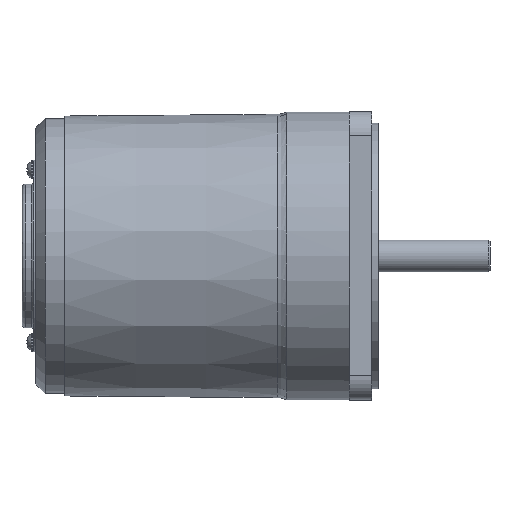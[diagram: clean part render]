
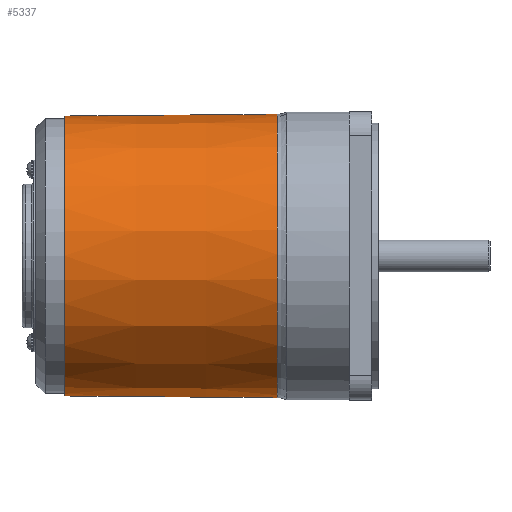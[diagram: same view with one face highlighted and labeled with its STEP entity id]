
A CAD part, top view. The second image highlights one B-rep face of the part: STEP entity #5337.
In plain terms, the highlighted conical face has half-angle 0.48 degrees and reference radius 44.029 mm.
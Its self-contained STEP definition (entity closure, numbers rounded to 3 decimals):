
#102=CONICAL_SURFACE('',#5844,44.029,0.48);
#181=B_SPLINE_CURVE_WITH_KNOTS('',3,(#9511,#9512,#9513,#9514),
 .UNSPECIFIED.,.F.,.F.,(4,4),(3.648,3.698),
 .UNSPECIFIED.);
#182=B_SPLINE_CURVE_WITH_KNOTS('',3,(#9515,#9516,#9517,#9518),
 .UNSPECIFIED.,.F.,.F.,(4,4),(-6.954,-3.698),
 .UNSPECIFIED.);
#183=B_SPLINE_CURVE_WITH_KNOTS('',3,(#9520,#9521,#9522,#9523),
 .UNSPECIFIED.,.F.,.F.,(4,4),(-3.256,0.),.UNSPECIFIED.);
#184=B_SPLINE_CURVE_WITH_KNOTS('',3,(#9525,#9526,#9527,#9528),
 .UNSPECIFIED.,.F.,.F.,(4,4),(3.256,3.306),
 .UNSPECIFIED.);
#377=FACE_BOUND('',#1218,.T.);
#576=CIRCLE('',#5827,43.75);
#586=CIRCLE('',#5843,44.308);
#587=CIRCLE('',#5845,44.031);
#871=FACE_OUTER_BOUND('',#1217,.T.);
#1217=EDGE_LOOP('',(#4345,#4346,#4347,#4348,#4349,#4350));
#1218=EDGE_LOOP('',(#4351));
#2380=VERTEX_POINT('',#9387);
#2391=VERTEX_POINT('',#9448);
#2403=VERTEX_POINT('',#9501);
#2404=VERTEX_POINT('',#9509);
#2405=VERTEX_POINT('',#9510);
#2406=VERTEX_POINT('',#9519);
#2407=VERTEX_POINT('',#9524);
#3055=EDGE_CURVE('',#2380,#2380,#576,.T.);
#3081=EDGE_CURVE('',#2391,#2403,#586,.T.);
#3082=EDGE_CURVE('',#2404,#2405,#181,.T.);
#3083=EDGE_CURVE('',#2403,#2405,#182,.T.);
#3084=EDGE_CURVE('',#2406,#2391,#183,.T.);
#3085=EDGE_CURVE('',#2406,#2407,#184,.T.);
#3086=EDGE_CURVE('',#2404,#2407,#587,.T.);
#4345=ORIENTED_EDGE('',*,*,#3082,.T.);
#4346=ORIENTED_EDGE('',*,*,#3083,.F.);
#4347=ORIENTED_EDGE('',*,*,#3081,.F.);
#4348=ORIENTED_EDGE('',*,*,#3084,.F.);
#4349=ORIENTED_EDGE('',*,*,#3085,.T.);
#4350=ORIENTED_EDGE('',*,*,#3086,.F.);
#4351=ORIENTED_EDGE('',*,*,#3055,.T.);
#5337=ADVANCED_FACE('',(#871,#377),#102,.T.);
#5827=AXIS2_PLACEMENT_3D('',#9388,#7003,#7004);
#5843=AXIS2_PLACEMENT_3D('',#9507,#7042,#7043);
#5844=AXIS2_PLACEMENT_3D('',#9508,#7044,#7045);
#5845=AXIS2_PLACEMENT_3D('',#9529,#7046,#7047);
#7003=DIRECTION('center_axis',(1.,0.,0.));
#7004=DIRECTION('ref_axis',(0.,1.,0.));
#7042=DIRECTION('center_axis',(1.,0.,0.));
#7043=DIRECTION('ref_axis',(0.,1.,0.));
#7044=DIRECTION('center_axis',(1.,0.,0.));
#7045=DIRECTION('ref_axis',(0.,1.,0.));
#7046=DIRECTION('center_axis',(1.,0.,0.));
#7047=DIRECTION('ref_axis',(0.,0.,-1.));
#9387=CARTESIAN_POINT('',(9.,43.75,0.));
#9388=CARTESIAN_POINT('Origin',(9.,0.,0.));
#9448=CARTESIAN_POINT('',(75.559,29.222,-33.306));
#9501=CARTESIAN_POINT('',(75.559,-29.222,-33.306));
#9507=CARTESIAN_POINT('Origin',(75.559,0.,0.));
#9508=CARTESIAN_POINT('Origin',(42.279,0.,
0.));
#9509=CARTESIAN_POINT('',(42.504,-29.21,-32.947));
#9510=CARTESIAN_POINT('',(43.,-29.21,-32.952));
#9511=CARTESIAN_POINT('Ctrl Pts',(42.504,-29.21,-32.947));
#9512=CARTESIAN_POINT('Ctrl Pts',(42.669,-29.21,-32.949));
#9513=CARTESIAN_POINT('Ctrl Pts',(42.835,-29.21,-32.95));
#9514=CARTESIAN_POINT('Ctrl Pts',(43.,-29.21,-32.952));
#9515=CARTESIAN_POINT('Ctrl Pts',(75.559,-29.222,-33.306));
#9516=CARTESIAN_POINT('Ctrl Pts',(64.706,-29.218,-33.188));
#9517=CARTESIAN_POINT('Ctrl Pts',(53.853,-29.214,-33.07));
#9518=CARTESIAN_POINT('Ctrl Pts',(43.,-29.21,-32.952));
#9519=CARTESIAN_POINT('',(43.,29.21,-32.952));
#9520=CARTESIAN_POINT('Ctrl Pts',(43.,29.21,-32.952));
#9521=CARTESIAN_POINT('Ctrl Pts',(53.853,29.214,-33.07));
#9522=CARTESIAN_POINT('Ctrl Pts',(64.706,29.218,-33.188));
#9523=CARTESIAN_POINT('Ctrl Pts',(75.559,29.222,-33.306));
#9524=CARTESIAN_POINT('',(42.504,29.21,-32.947));
#9525=CARTESIAN_POINT('Ctrl Pts',(43.,29.21,-32.952));
#9526=CARTESIAN_POINT('Ctrl Pts',(42.835,29.21,-32.95));
#9527=CARTESIAN_POINT('Ctrl Pts',(42.669,29.21,-32.949));
#9528=CARTESIAN_POINT('Ctrl Pts',(42.504,29.21,-32.947));
#9529=CARTESIAN_POINT('Origin',(42.504,0.,0.));
